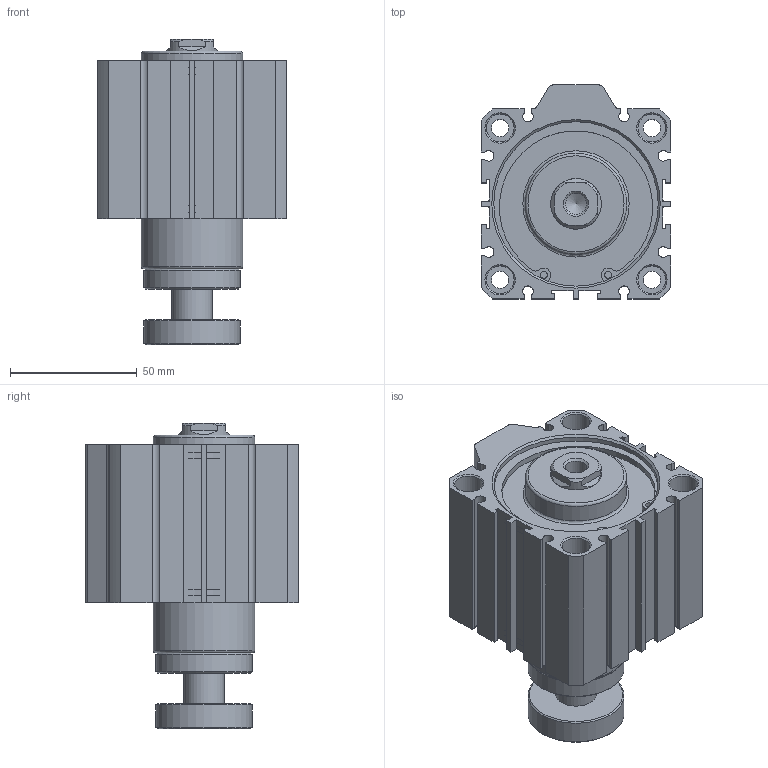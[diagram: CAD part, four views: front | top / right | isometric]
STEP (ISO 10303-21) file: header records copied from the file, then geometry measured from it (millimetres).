
FILE_DESCRIPTION((''),'2;1');
FILE_NAME('I:\3D電子目錄\氣缸\JDAR\JDAR-S\JDAR63-S\JDAR63x20-S.stp','2007-05-05T10:25:08',('662F206'),(''),'Autodesk Inventor 11','Autodesk Inventor 11','');
FILE_SCHEMA(('AUTOMOTIVE_DESIGN { 1 0 10303 214 1 1 1 1 }'));
Length unit declared in the file: millimetre
Products named in the file (3): JDAR63-S; R 形環 65
Assembly tree (3 placements, depth 2):
  JDAR63-S
    JDAR63-S
    R 形環 65  x2
Bounding box: 75 x 84.5 x 120.8 mm (x, y, z)
Volume: 364033.2 mm3; surface area: 62741.9 mm2
Topology: 3 solids, 3 shells, 197 faces, 484 edges, 317 vertices
Faces by surface type: plane 110, cylinder 58, cone 23, bspline 4, torus 2
Full cylindrical faces by diameter (mm): 2.7 x4, 3 x2, 6.8 x4, 11 x8, 16 x1, 20 x1, 38 x2, 40 x2, 65 x4, 68 x2
Entity records: 5335 total; most frequent: CARTESIAN_POINT 1013, DIRECTION 898, ORIENTED_EDGE 788, EDGE_CURVE 394, AXIS2_PLACEMENT_3D 325, VERTEX_POINT 290, EDGE_LOOP 274, VECTOR 248
